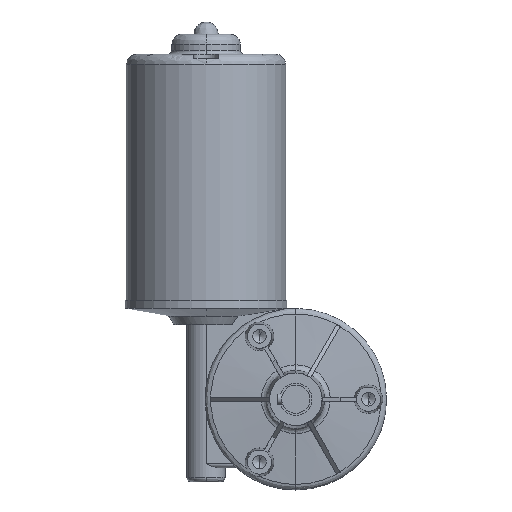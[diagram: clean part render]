
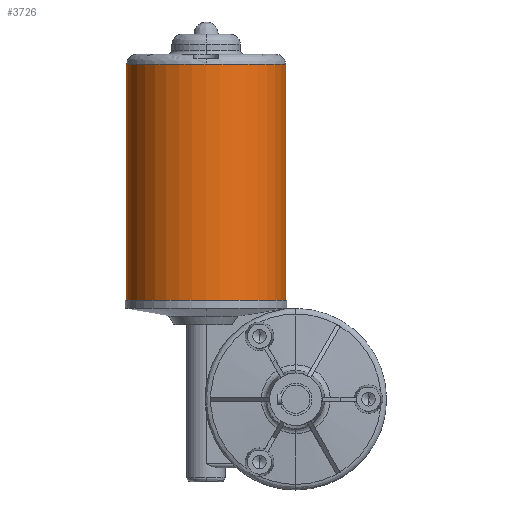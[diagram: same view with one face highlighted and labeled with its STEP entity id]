
A CAD part, left-side view. The second image highlights one B-rep face of the part: STEP entity #3726.
In plain terms, the highlighted cylindrical face has radius 39.5 mm (diameter 79 mm), a partial arc.
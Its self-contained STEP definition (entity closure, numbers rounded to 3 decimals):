
#194 = VERTEX_POINT ( 'NONE', #2126 ) ;
#285 = CIRCLE ( 'NONE', #3768, 39.5 ) ;
#558 = CARTESIAN_POINT ( 'NONE',  ( 85.2, 44.5, 49. ) ) ;
#560 = DIRECTION ( 'NONE',  ( 0., 0., -1. ) ) ;
#564 = DIRECTION ( 'NONE',  ( 0., 1., 0. ) ) ;
#710 = VERTEX_POINT ( 'NONE', #2851 ) ;
#749 = DIRECTION ( 'NONE',  ( 0., 1., 0. ) ) ;
#804 = CARTESIAN_POINT ( 'NONE',  ( 45.7, 44.5, 166. ) ) ;
#812 = CYLINDRICAL_SURFACE ( 'NONE', #1922, 39.5 ) ;
#883 = CARTESIAN_POINT ( 'NONE',  ( 85.2, 44.5, 166. ) ) ;
#909 = DIRECTION ( 'NONE',  ( 0., 0., -1. ) ) ;
#917 = AXIS2_PLACEMENT_3D ( 'NONE', #1760, #1748, #1741 ) ;
#932 = FACE_OUTER_BOUND ( 'NONE', #1573, .T. ) ;
#1413 = CARTESIAN_POINT ( 'NONE',  ( 85.2, 5., 49. ) ) ;
#1487 = LINE ( 'NONE', #3954, #2250 ) ;
#1503 = ORIENTED_EDGE ( 'NONE', *, *, #2844, .F. ) ;
#1538 = CARTESIAN_POINT ( 'NONE',  ( 85.2, 44.5, 166. ) ) ;
#1542 = DIRECTION ( 'NONE',  ( 0., 0., 1. ) ) ;
#1546 = DIRECTION ( 'NONE',  ( 0., -1., 0. ) ) ;
#1573 = EDGE_LOOP ( 'NONE', ( #2717, #4102, #1503, #3023, #3912 ) ) ;
#1577 = EDGE_CURVE ( 'NONE', #4264, #710, #2440, .T. ) ;
#1605 = EDGE_CURVE ( 'NONE', #194, #3972, #1487, .T. ) ;
#1741 = DIRECTION ( 'NONE',  ( 0., -1., 0. ) ) ;
#1748 = DIRECTION ( 'NONE',  ( 0., 0., 1. ) ) ;
#1760 = CARTESIAN_POINT ( 'NONE',  ( 85.2, 44.5, 166. ) ) ;
#1794 = CARTESIAN_POINT ( 'NONE',  ( 85.2, 84., 166. ) ) ;
#1922 = AXIS2_PLACEMENT_3D ( 'NONE', #883, #909, #749 ) ;
#1929 = VERTEX_POINT ( 'NONE', #804 ) ;
#2126 = CARTESIAN_POINT ( 'NONE',  ( 85.2, 5., 166. ) ) ;
#2250 = VECTOR ( 'NONE', #3936, 1000. ) ;
#2440 = LINE ( 'NONE', #3829, #3130 ) ;
#2467 = CIRCLE ( 'NONE', #2662, 39.5 ) ;
#2662 = AXIS2_PLACEMENT_3D ( 'NONE', #558, #560, #564 ) ;
#2717 = ORIENTED_EDGE ( 'NONE', *, *, #1605, .F. ) ;
#2844 = EDGE_CURVE ( 'NONE', #4264, #1929, #3600, .T. ) ;
#2851 = CARTESIAN_POINT ( 'NONE',  ( 85.2, 84., 49. ) ) ;
#3023 = ORIENTED_EDGE ( 'NONE', *, *, #1577, .T. ) ;
#3130 = VECTOR ( 'NONE', #3849, 1000. ) ;
#3523 = EDGE_CURVE ( 'NONE', #3972, #710, #2467, .T. ) ;
#3600 = CIRCLE ( 'NONE', #917, 39.5 ) ;
#3726 = ADVANCED_FACE ( 'NONE', ( #932 ), #812, .T. ) ;
#3768 = AXIS2_PLACEMENT_3D ( 'NONE', #1538, #1542, #1546 ) ;
#3829 = CARTESIAN_POINT ( 'NONE',  ( 85.2, 84., 166. ) ) ;
#3849 = DIRECTION ( 'NONE',  ( 0., 0., -1. ) ) ;
#3912 = ORIENTED_EDGE ( 'NONE', *, *, #3523, .F. ) ;
#3936 = DIRECTION ( 'NONE',  ( 0., 0., -1. ) ) ;
#3954 = CARTESIAN_POINT ( 'NONE',  ( 85.2, 5., 166. ) ) ;
#3972 = VERTEX_POINT ( 'NONE', #1413 ) ;
#4072 = EDGE_CURVE ( 'NONE', #1929, #194, #285, .T. ) ;
#4102 = ORIENTED_EDGE ( 'NONE', *, *, #4072, .F. ) ;
#4264 = VERTEX_POINT ( 'NONE', #1794 ) ;
